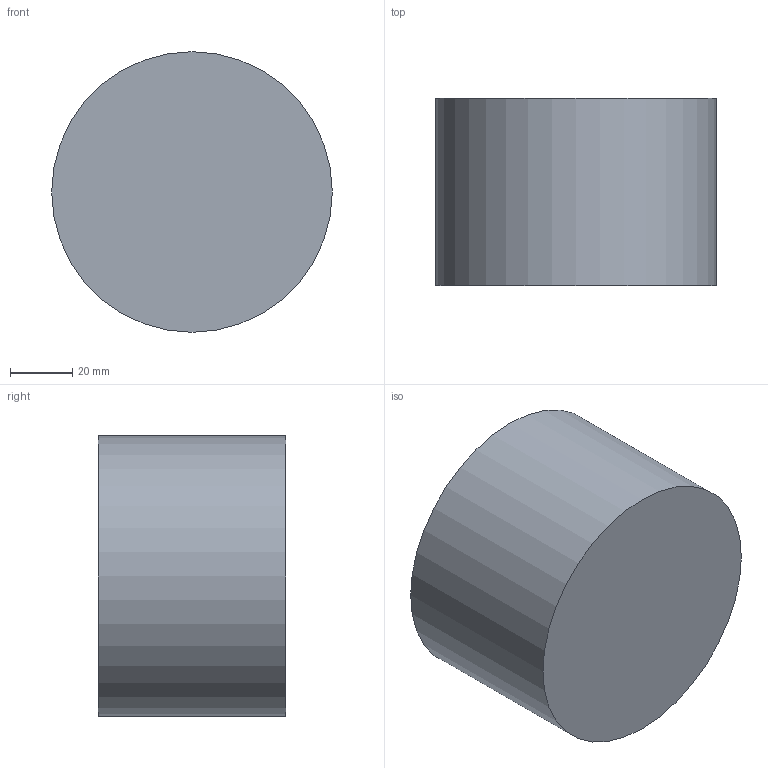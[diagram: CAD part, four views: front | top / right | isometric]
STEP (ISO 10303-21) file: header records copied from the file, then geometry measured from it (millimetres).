
FILE_DESCRIPTION(('Open CASCADE Model'),'2;1');
FILE_NAME('Open CASCADE Shape Model','2026-10-10T15:34:57',('Author'),( 'Open CASCADE'),'Open CASCADE STEP processor 7.9','Open CASCADE 7.9' ,'Unknown');
FILE_SCHEMA(('AUTOMOTIVE_DESIGN { 1 0 10303 214 1 1 1 1 }'));
Length unit declared in the file: millimetre
Products named in the file (1): Open CASCADE STEP translator 7.9 13
Bounding box: 90 x 60 x 90 mm (x, y, z)
Volume: 381703.5 mm3; surface area: 29688.1 mm2
Topology: 1 solids, 1 shells, 3 faces, 3 edges, 2 vertices
Faces by surface type: plane 2, cylinder 1
Full cylindrical faces by diameter (mm): 90 x1
Entity records: 108 total; most frequent: DIRECTION 19, CARTESIAN_POINT 15, AXIS2_PLACEMENT_3D 6, ORIENTED_EDGE 6, PCURVE 6, DEFINITIONAL_REPRESENTATION 6, LINE 5, VECTOR 5
